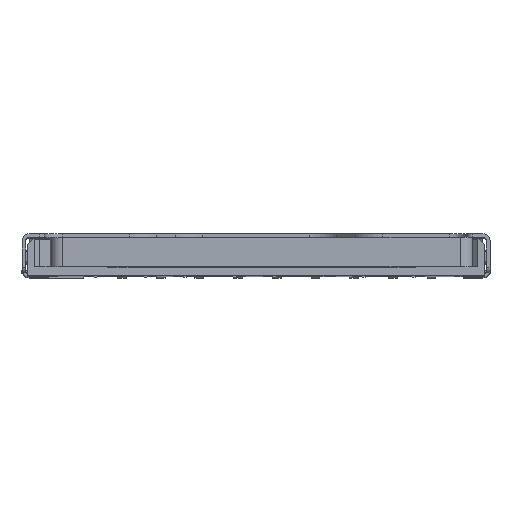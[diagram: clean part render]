
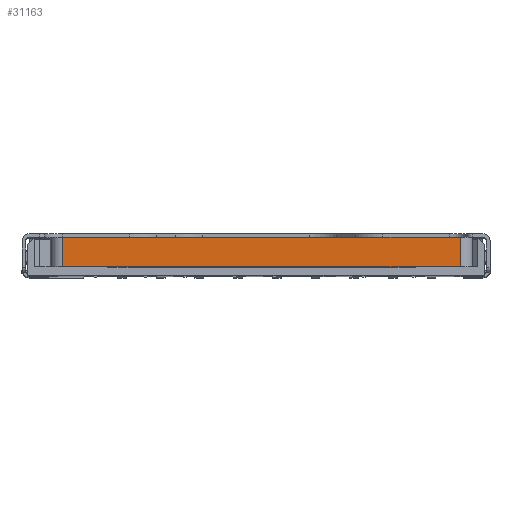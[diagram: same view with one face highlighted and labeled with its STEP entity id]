
A CAD part, top view. The second image highlights one B-rep face of the part: STEP entity #31163.
In plain terms, the highlighted planar face has unit normal (0, 0, 1).
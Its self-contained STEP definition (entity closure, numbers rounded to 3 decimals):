
#8652=DIRECTION('',(-1.,0.,0.));
#8653=VECTOR('',#8652,11.3);
#8654=CARTESIAN_POINT('',(5.8,0.26,1.));
#8655=LINE('',#8654,#8653);
#8656=DIRECTION('',(1.,0.,0.));
#8657=VECTOR('',#8656,11.3);
#8658=CARTESIAN_POINT('',(-5.5,1.1,1.));
#8659=LINE('',#8658,#8657);
#8660=DIRECTION('',(0.,-1.,0.));
#8661=VECTOR('',#8660,0.84);
#8662=CARTESIAN_POINT('',(5.8,1.1,1.));
#8663=LINE('',#8662,#8661);
#8664=DIRECTION('',(0.,-1.,0.));
#8665=VECTOR('',#8664,0.84);
#8666=CARTESIAN_POINT('',(-5.5,1.1,1.));
#8667=LINE('',#8666,#8665);
#17668=CARTESIAN_POINT('',(-5.5,0.26,1.));
#17670=VERTEX_POINT('',#17668);
#17671=CARTESIAN_POINT('',(5.8,0.26,1.));
#17672=VERTEX_POINT('',#17671);
#17684=CARTESIAN_POINT('',(5.8,1.1,1.));
#17686=VERTEX_POINT('',#17684);
#17687=CARTESIAN_POINT('',(-5.5,1.1,1.));
#17688=VERTEX_POINT('',#17687);
#31151=CARTESIAN_POINT('',(0.15,0.68,1.));
#31152=DIRECTION('',(0.,0.,1.));
#31153=DIRECTION('',(1.,0.,0.));
#31154=AXIS2_PLACEMENT_3D('',#31151,#31152,#31153);
#31155=PLANE('',#31154);
#31156=ORIENTED_EDGE('',*,*,#19475,.T.);
#31158=ORIENTED_EDGE('',*,*,#31157,.F.);
#31159=ORIENTED_EDGE('',*,*,#25703,.T.);
#31160=ORIENTED_EDGE('',*,*,#31144,.T.);
#31161=EDGE_LOOP('',(#31156,#31158,#31159,#31160));
#31162=FACE_OUTER_BOUND('',#31161,.F.);
#31163=ADVANCED_FACE('',(#31162),#31155,.T.);
#19475=EDGE_CURVE('',#17672,#17670,#8655,.T.);
#25703=EDGE_CURVE('',#17688,#17686,#8659,.T.);
#31144=EDGE_CURVE('',#17686,#17672,#8663,.T.);
#31157=EDGE_CURVE('',#17688,#17670,#8667,.T.);
